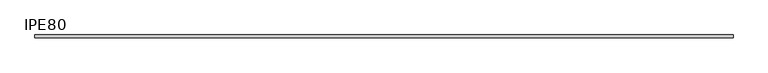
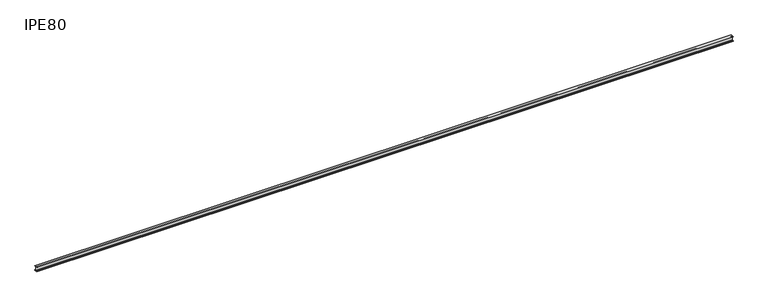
"""IFC4 building model written with IfcOpenShell, lengths in millimetres: beam geometry, IPE-Poutrelles : IPE80."""

from ifc_helpers import new_model, si_unit, point, frame, frame_2d, origin, place, context, project, spatial, polyline, circle_curve, trimmed, segment, composite_curve, outline, extrude, source, transform, mapped, element, save


def ipe80_e4c5f233(model_context):
    return source(origin(), model_context, "Body", "SweptSolid", [
        extrude(outline(composite_curve([segment(polyline([(23.0, -34.8), (23.0, -40.0), (-23.0, -40.0), (-23.0, -34.8), (-6.9, -34.8)]), True, "CONTINUOUS"), segment(trimmed(circle_curve(frame_2d((-6.9, -29.8)), 5.0), [point((-6.9, -34.8))], [point((-1.9, -29.8))], True, "CARTESIAN"), True, "CONTINUOUS"), segment(polyline([(-1.9, -29.8), (-1.9, 29.8)]), True, "CONTINUOUS"), segment(trimmed(circle_curve(frame_2d((-6.9, 29.8)), 5.0), [point((-1.9, 29.8))], [point((-6.9, 34.8))], True, "CARTESIAN"), True, "CONTINUOUS"), segment(polyline([(-6.9, 34.8), (-23.0, 34.8), (-23.0, 40.0), (23.0, 40.0), (23.0, 34.8), (6.9, 34.8)]), True, "CONTINUOUS"), segment(trimmed(circle_curve(frame_2d((6.9, 29.8)), 5.0), [point((6.9, 34.8))], [point((1.9, 29.8))], True, "CARTESIAN"), True, "CONTINUOUS"), segment(polyline([(1.9, 29.8), (1.9, -29.8)]), True, "CONTINUOUS"), segment(trimmed(circle_curve(frame_2d((6.9, -29.8)), 5.0), [point((1.9, -29.8))], [point((6.9, -34.8))], True, "CARTESIAN"), True, "CONTINUOUS"), segment(polyline([(6.9, -34.8), (23.0, -34.8)]), True, "CONTINUOUS")], self_intersect=False)), frame((-5750.0, 0.0, 0.0), z_axis=(1.0, 0.0, 0.0), x_axis=(0.0, 1.0, 0.0)), (0.0, 0.0, 1.0), 11464.0),
    ])


if __name__ == "__main__":
    model = new_model("IFC4")
    model_context = context("Model", 3, world=origin())
    ifc_project = project(units=[si_unit("LENGTHUNIT", "METRE", prefix="MILLI")], contexts=[model_context])
    site = spatial("IfcSite", under=ifc_project)
    building = spatial("IfcBuilding", under=site)
    placement = place(None, origin())
    ipe80_shape = ipe80_e4c5f233(model_context)
    element("IfcBeam", 1, ObjectType="IPE-Poutrelles : IPE80", at=placement, inside=building, context=model_context, shape_type="MappedRepresentation", body=[
        mapped(ipe80_shape, transform((0.0, 0.0, 0.0), x_axis=(1.0, 0.0, 0.0), y_axis=(0.0, 1.0, 0.0), z_axis=(0.0, 0.0, 1.0))),
    ])
    save(model, "model.ifc")
